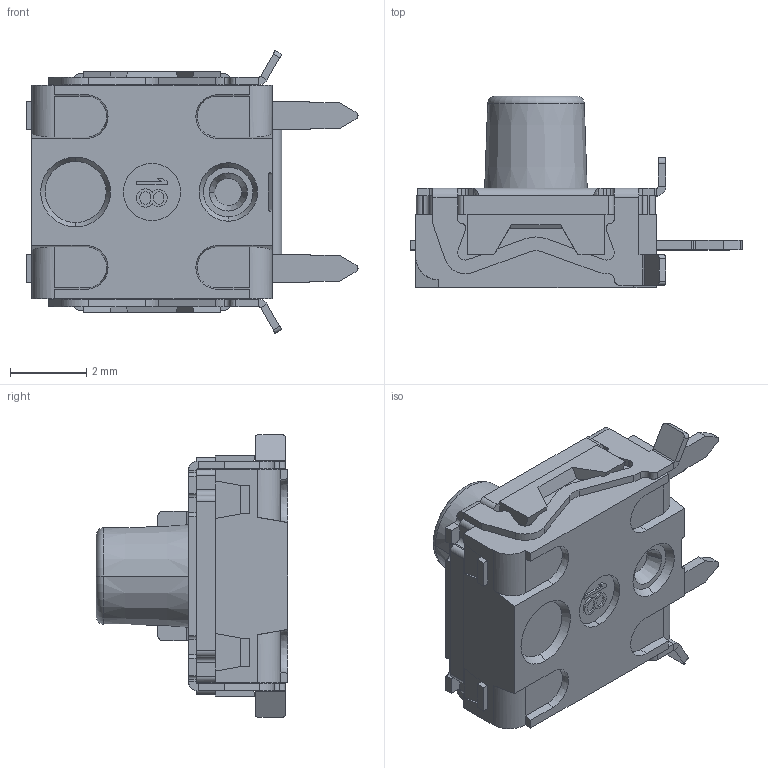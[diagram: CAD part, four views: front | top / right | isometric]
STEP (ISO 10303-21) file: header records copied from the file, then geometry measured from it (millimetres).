
FILE_DESCRIPTION((''),'2;1');
FILE_NAME('KSC_443_V2','2013-01-03T',('lb9412d'),(''),'PRO/ENGINEER BY PARAMETRIC TECHNOLOGY CORPORATION, 2009090','PRO/ENGINEER BY PARAMETRIC TECHNOLOGY CORPORATION, 2009090','');
FILE_SCHEMA(('CONFIG_CONTROL_DESIGN'));
Length unit declared in the file: millimetre
Products named in the file (1): KSC_443_V2
Bounding box: 8.7 x 5.01 x 7.41 mm (x, y, z)
Volume: 105.9 mm3; surface area: 208.9 mm2
Topology: 1 solids, 1 shells, 438 faces, 1220 edges, 782 vertices
Faces by surface type: plane 312, cylinder 102, cone 12, bspline 8, torus 4
Entity records: 16267 total; most frequent: CARTESIAN_POINT 3110, ORIENTED_EDGE 2440, DIRECTION 2260, EDGE_CURVE 1220, VECTOR 952, LINE 952, VERTEX_POINT 782, AXIS2_PLACEMENT_3D 654
